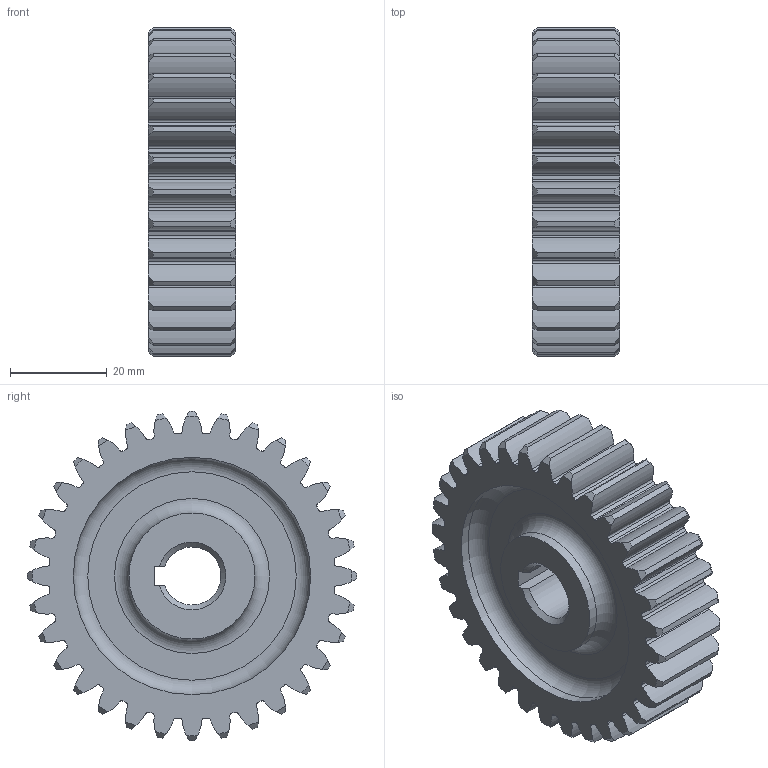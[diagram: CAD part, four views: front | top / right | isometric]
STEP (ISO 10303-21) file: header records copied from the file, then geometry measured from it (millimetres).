
FILE_DESCRIPTION(/* description */ (''),/* implementation_level */ '2;1');
FILE_NAME(/* name */ '',/* time_stamp */ '2026-06-02T17:08:42+09:00',/* author */ ('jhkim'),/* organization */ (''),/* preprocessor_version */ 'ST-DEVELOPER v20.1',/* originating_system */ 'Autodesk Inventor 2027',/* authorisation */ '');
FILE_SCHEMA (('AUTOMOTIVE_DESIGN { 1 0 10303 214 3 1 1 }'));
Length unit declared in the file: millimetre
Products named in the file (1): 스퍼 기어
Bounding box: 18 x 68 x 68 mm (x, y, z)
Volume: 42372 mm3; surface area: 15523.3 mm2
Topology: 1 solids, 1 shells, 276 faces, 810 edges, 540 vertices
Faces by surface type: cylinder 197, cone 66, plane 9, torus 4
Full cylindrical faces by diameter (mm): 26 x2, 49 x2
Entity records: 9617 total; most frequent: CARTESIAN_POINT 2019, DIRECTION 1704, ORIENTED_EDGE 1620, EDGE_CURVE 810, AXIS2_PLACEMENT_3D 749, VERTEX_POINT 540, CIRCLE 472, EDGE_LOOP 282
